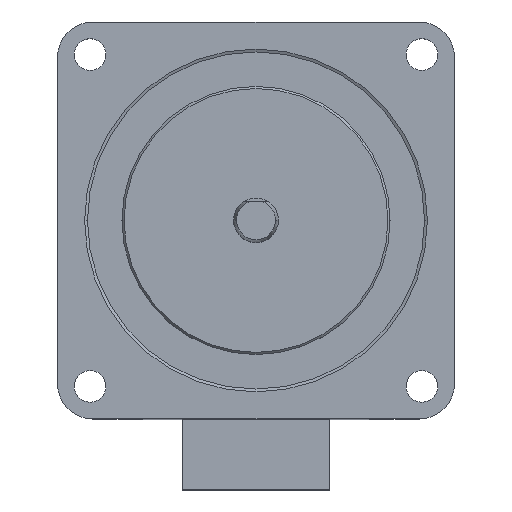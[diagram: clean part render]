
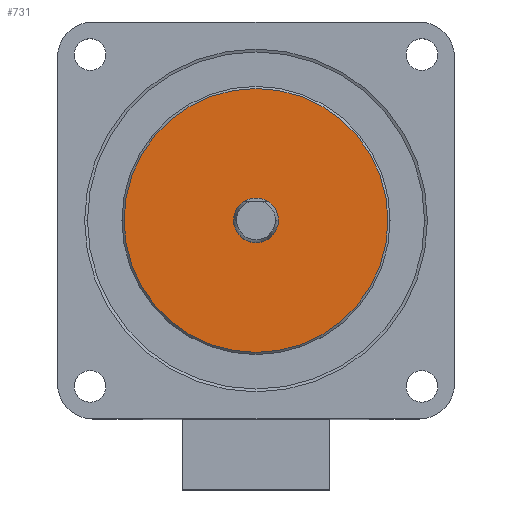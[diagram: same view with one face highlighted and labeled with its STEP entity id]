
A CAD part, top view. The second image highlights one B-rep face of the part: STEP entity #731.
In plain terms, the highlighted planar face has unit normal (0, 0, 1).
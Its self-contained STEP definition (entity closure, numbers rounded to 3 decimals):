
#126 = DIRECTION ( 'NONE',  ( 0., 0., -1. ) ) ;
#131 = DIRECTION ( 'NONE',  ( -1., 0., 0. ) ) ;
#140 = CIRCLE ( 'NONE', #1944, 3.175 ) ;
#215 = ORIENTED_EDGE ( 'NONE', *, *, #788, .T. ) ;
#218 = ORIENTED_EDGE ( 'NONE', *, *, #2040, .T. ) ;
#374 = CARTESIAN_POINT ( 'NONE',  ( 0., 0., 0. ) ) ;
#378 = EDGE_CURVE ( 'NONE', #1442, #1019, #2248, .T. ) ;
#379 = DIRECTION ( 'NONE',  ( 0., 0., -1. ) ) ;
#380 = DIRECTION ( 'NONE',  ( -1., 0., 0. ) ) ;
#410 = CARTESIAN_POINT ( 'NONE',  ( -3.175, 0., 0. ) ) ;
#412 = EDGE_CURVE ( 'NONE', #1875, #1383, #1719, .T. ) ;
#497 = DIRECTION ( 'NONE',  ( -1., 0., 0. ) ) ;
#541 = FACE_BOUND ( 'NONE', #734, .T. ) ;
#609 = CARTESIAN_POINT ( 'NONE',  ( 0., 0., 0. ) ) ;
#611 = DIRECTION ( 'NONE',  ( 0., 0., -1. ) ) ;
#654 = CARTESIAN_POINT ( 'NONE',  ( 18.75, 0., 0. ) ) ;
#721 = AXIS2_PLACEMENT_3D ( 'NONE', #855, #611, #380 ) ;
#727 = CARTESIAN_POINT ( 'NONE',  ( -18.75, 0., 0. ) ) ;
#731 = ADVANCED_FACE ( 'NONE', ( #2044, #541 ), #854, .F. ) ;
#734 = EDGE_LOOP ( 'NONE', ( #2278, #218 ) ) ;
#743 = DIRECTION ( 'NONE',  ( 0., 0., 1. ) ) ;
#788 = EDGE_CURVE ( 'NONE', #1019, #1442, #1920, .T. ) ;
#854 = PLANE ( 'NONE',  #1326 ) ;
#855 = CARTESIAN_POINT ( 'NONE',  ( 0., 0., 0. ) ) ;
#959 = ORIENTED_EDGE ( 'NONE', *, *, #378, .T. ) ;
#1019 = VERTEX_POINT ( 'NONE', #654 ) ;
#1326 = AXIS2_PLACEMENT_3D ( 'NONE', #609, #379, #131 ) ;
#1378 = DIRECTION ( 'NONE',  ( -1., 0., 0. ) ) ;
#1383 = VERTEX_POINT ( 'NONE', #1722 ) ;
#1442 = VERTEX_POINT ( 'NONE', #727 ) ;
#1606 = DIRECTION ( 'NONE',  ( 0., 0., 1. ) ) ;
#1674 = CARTESIAN_POINT ( 'NONE',  ( 0., 0., 0. ) ) ;
#1689 = EDGE_LOOP ( 'NONE', ( #959, #215 ) ) ;
#1719 = CIRCLE ( 'NONE', #721, 3.175 ) ;
#1722 = CARTESIAN_POINT ( 'NONE',  ( 3.175, 0., 0. ) ) ;
#1852 = CARTESIAN_POINT ( 'NONE',  ( 0., 0., 0. ) ) ;
#1875 = VERTEX_POINT ( 'NONE', #410 ) ;
#1920 = CIRCLE ( 'NONE', #2286, 18.75 ) ;
#1944 = AXIS2_PLACEMENT_3D ( 'NONE', #374, #126, #2205 ) ;
#2005 = AXIS2_PLACEMENT_3D ( 'NONE', #1852, #1606, #1378 ) ;
#2040 = EDGE_CURVE ( 'NONE', #1383, #1875, #140, .T. ) ;
#2044 = FACE_OUTER_BOUND ( 'NONE', #1689, .T. ) ;
#2205 = DIRECTION ( 'NONE',  ( -1., 0., 0. ) ) ;
#2248 = CIRCLE ( 'NONE', #2005, 18.75 ) ;
#2278 = ORIENTED_EDGE ( 'NONE', *, *, #412, .T. ) ;
#2286 = AXIS2_PLACEMENT_3D ( 'NONE', #1674, #743, #497 ) ;
